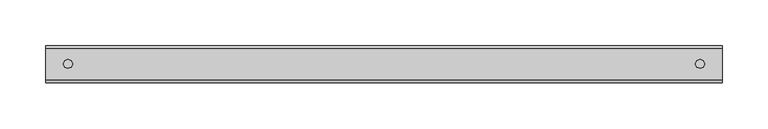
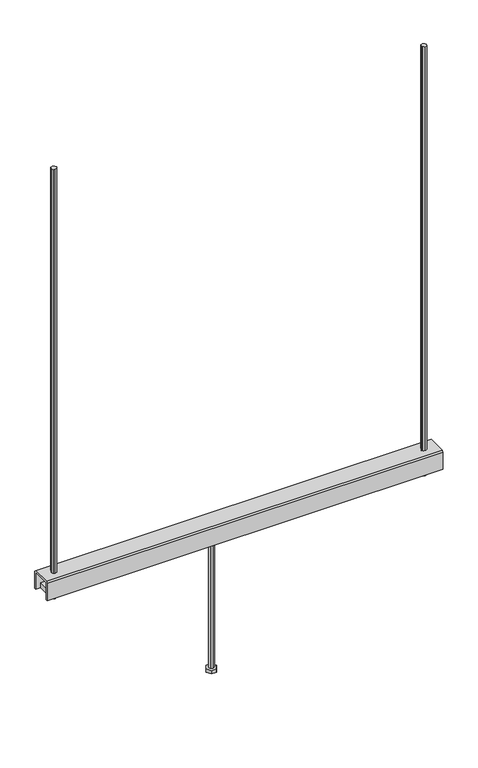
"""IFC4 building model written with IfcOpenShell, lengths in millimetres: proxy geometry, Beared-Hanger : BearedHanger."""

from ifc_helpers import new_model, si_unit, frame, origin, place, context, project, spatial, polyline, outline, extrude, source, transform, mapped, element, save


def mechanical_equipment_dfcd9e7d(model_context):
    return source(origin(), model_context, "Body", "SweptSolid", [
        extrude(outline(polyline([(-61.1734009, 0.0), (-56.1734009, 8.659668), (-46.1734009, 8.659668), (-41.1734009, 0.0), (-46.1734009, -8.659668), (-56.1734009, -8.659668), (-61.1734009, 0.0)])), frame((0.0, 0.0, -1091.29766), z_axis=(0.0, 0.0, 1.0), x_axis=(1.0, 0.0, 0.0)), (0.0, 0.0, 1.0), 6.6101074),
        extrude(outline(polyline([(-36.2649536, 16.7883301), (-36.2649536, -17.3962402), (-66.0818481, -17.3962402), (-66.0818481, 16.7883301), (-36.2649536, 16.7883301)])), frame((0.0, 0.0, -830.7483436), z_axis=(0.0, 0.0, 1.0), x_axis=(1.0, 0.0, 0.0)), (0.0, 0.0, 1.0), 10.0),
        extrude(outline(polyline([(-51.1734009, 5.0), (-47.6382446, 3.5351562), (-46.1734009, 0.0), (-47.6382446, -3.5351563), (-51.1734009, -5.0), (-54.7085571, -3.5351563), (-56.1740112, 0.0), (-54.7085571, 3.5351562), (-51.1734009, 5.0)])), frame((0.0, 0.0, -1084.6875526), z_axis=(0.0, 0.0, 1.0), x_axis=(1.0, 0.0, 0.0)), (0.0, 0.0, 1.0), 253.939209),
        extrude(outline(polyline([(329.6835327, -17.3962402), (329.6835327, 16.7883301), (359.5004272, 16.7883301), (359.5004272, -17.3962402), (329.6835327, -17.3962402)])), frame((0.0, 0.0, -830.7483436), z_axis=(0.0, 0.0, 1.0), x_axis=(1.0, 0.0, 0.0)), (0.0, 0.0, 1.0), 10.0),
        extrude(outline(polyline([(344.59198, 5.0), (348.1271362, 3.5351562), (349.5925903, 0.0), (348.1271362, -3.5351563), (344.59198, -5.0), (341.0568237, -3.5351563), (339.59198, 0.0), (341.0568237, 3.5351562), (344.59198, 5.0)])), frame((0.0, 0.0, -844.3329383), z_axis=(0.0, 0.0, 1.0), x_axis=(1.0, 0.0, 0.0)), (0.0, 0.0, 1.0), 844.3329383),
        extrude(outline(polyline([(-329.6835327, 16.7883301), (-329.6835327, -17.3962402), (-359.5004272, -17.3962402), (-359.5004272, 16.7883301), (-329.6835327, 16.7883301)])), frame((0.0, 0.0, -830.7483436), z_axis=(0.0, 0.0, 1.0), x_axis=(1.0, 0.0, 0.0)), (0.0, 0.0, 1.0), 10.0),
        extrude(outline(polyline([(-344.59198, 5.0), (-341.0568237, 3.5351562), (-339.59198, 0.0), (-341.0568237, -3.5351563), (-344.59198, -5.0), (-348.1271362, -3.5351563), (-349.5925903, 0.0), (-348.1271362, 3.5351562), (-344.59198, 5.0)])), frame((0.0, 0.0, -844.3329383), z_axis=(0.0, 0.0, 1.0), x_axis=(1.0, 0.0, 0.0)), (0.0, 0.0, 1.0), 844.3329383),
        extrude(outline(polyline([(-17.8259277, -794.3329383), (17.1740723, -794.3329383), (19.6740723, -796.8326332), (19.6740723, -830.7483436), (16.7883301, -830.7483436), (16.7883301, -797.3328163), (-17.3962402, -797.3328163), (-17.3962402, -830.7483436), (-20.3259277, -830.7483436), (-20.3259277, -796.8326332), (-17.8259277, -794.3329383)])), frame((-368.6364746, 0.0, 0.0), z_axis=(1.0, 0.0, 0.0), x_axis=(0.0, 1.0, 0.0)), (0.0, 0.0, 1.0), 737.2729492),
    ])


if __name__ == "__main__":
    model = new_model("IFC4")
    model_context = context("Model", 3, world=origin())
    ifc_project = project(units=[si_unit("LENGTHUNIT", "METRE", prefix="MILLI")], contexts=[model_context])
    site = spatial("IfcSite", under=ifc_project)
    building = spatial("IfcBuilding", under=site)
    placement = place(None, origin())
    mechanical_equipment_shape = mechanical_equipment_dfcd9e7d(model_context)
    element("IfcBuildingElementProxy", 1, Name="Beared-Hanger : BearedHanger", ObjectType="Beared-Hanger : BearedHanger", at=placement, inside=building, context=model_context, shape_type="MappedRepresentation", body=[
        mapped(mechanical_equipment_shape, transform((0.0, 0.0, 0.0), x_axis=(1.0, 0.0, 0.0), y_axis=(0.0, 1.0, 0.0), z_axis=(0.0, 0.0, 1.0))),
    ])
    save(model, "model.ifc")
